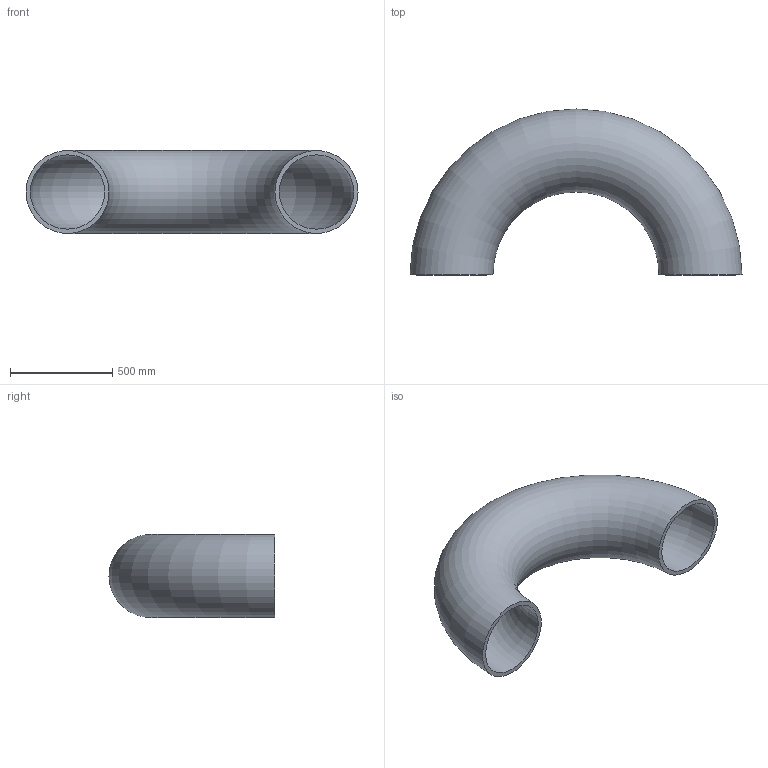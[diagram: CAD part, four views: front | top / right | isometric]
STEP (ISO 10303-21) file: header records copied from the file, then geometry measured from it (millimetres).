
FILE_DESCRIPTION(/* description */ (''),/* implementation_level */ '2;1');
FILE_NAME(/* name */ 'C:\Users\D\Documents\Inventor\HP\JIS\配管\エルボ ロング 180°\Sch80\Elbow180-long-400A-Sch80.stp',/* time_stamp */ '2022-06-14T14:55:26+09:00',/* author */ ('D'),/* organization */ (''),/* preprocessor_version */ 'ST-DEVELOPER v18',/* originating_system */ 'Autodesk Inventor 2020',/* authorisation */ '');
FILE_SCHEMA (('AUTOMOTIVE_DESIGN { 1 0 10303 214 3 1 1 }'));
Length unit declared in the file: millimetre
Products named in the file (1): Elbow-long-90-15A-SGP
Bounding box: 1625.6 x 812.8 x 406.4 mm (x, y, z)
Volume: 49570032.8 mm3; surface area: 4684480.5 mm2
Topology: 1 solids, 1 shells, 4 faces, 10 edges, 8 vertices
Faces by surface type: torus 2, plane 2
Entity records: 181 total; most frequent: DIRECTION 30, CARTESIAN_POINT 23, ORIENTED_EDGE 20, AXIS2_PLACEMENT_3D 15, CIRCLE 10, EDGE_CURVE 10, VERTEX_POINT 8, EDGE_LOOP 6
